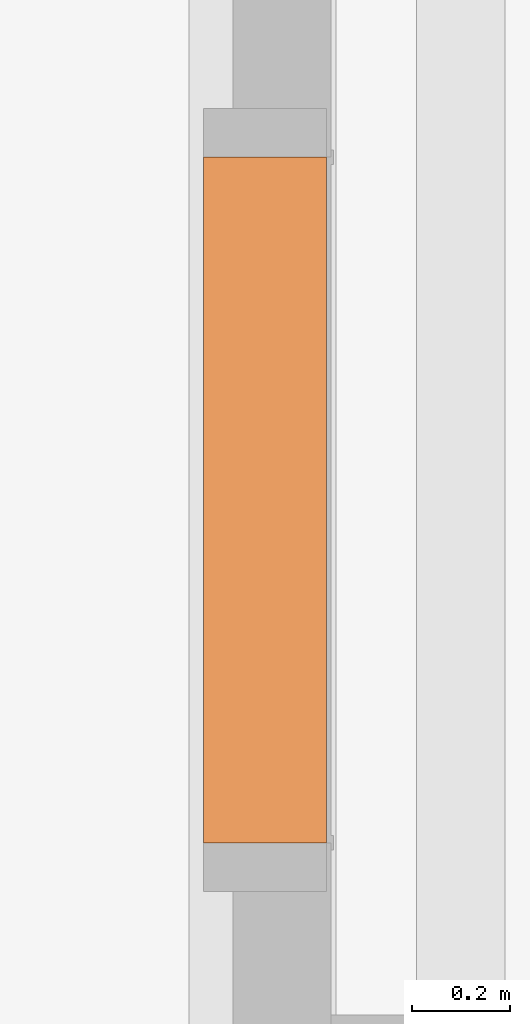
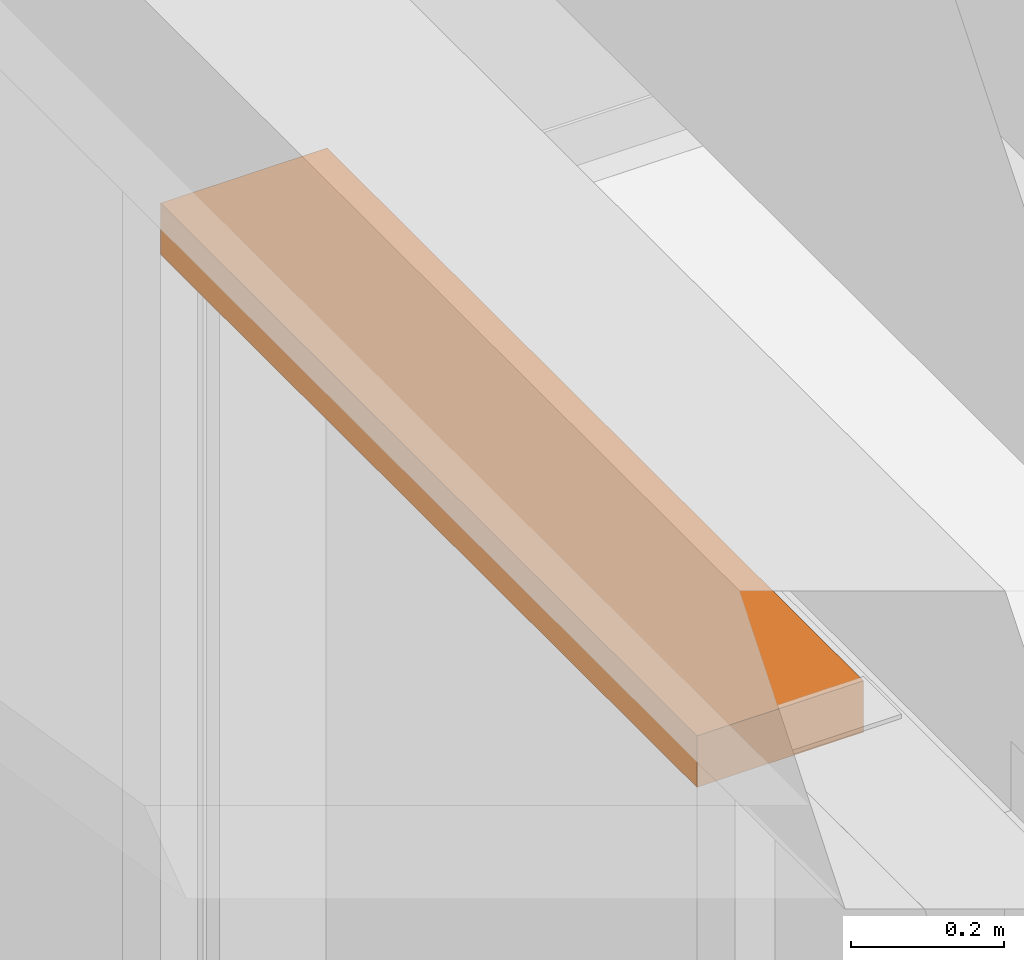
# One storey, part 48 of 49: 1 proxy.
"""IFC4 building model written with IfcOpenShell, lengths in metres."""

from ifc_helpers import new_model, entity, si_unit, converted_unit, derived_unit, direction, frame, origin, place, context, subcontext, project, spatial, indexed_curve, outline, extrude, source, transform, mapped, material, material_list, type_object, type_shapes, element, save


model = new_model("IFC4")

# Units and contexts
model_context = context("Model", 3, precision=1e-05, world=origin(), true_north=direction((6.12303176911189e-17, 1.0)))
body_context = subcontext(model_context, "Body", "Model", "MODEL_VIEW")
ifc_project = project(units=[si_unit("LENGTHUNIT", "METRE"), si_unit("AREAUNIT", "SQUARE_METRE"), si_unit("VOLUMEUNIT", "CUBIC_METRE"), converted_unit("PLANEANGLEUNIT", "DEGREE", entity("IfcRatioMeasure", 0.0174532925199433), si_unit("PLANEANGLEUNIT", "RADIAN"), dimensions=[0, 0, 0, 0, 0, 0, 0]), si_unit("MASSUNIT", "GRAM", prefix="KILO"), derived_unit("MASSDENSITYUNIT", [(si_unit("MASSUNIT", "GRAM", prefix="KILO"), 1), (si_unit("LENGTHUNIT", "METRE"), -3)]), derived_unit("MOMENTOFINERTIAUNIT", [(si_unit("LENGTHUNIT", "METRE"), 4)]), si_unit("TIMEUNIT", "SECOND"), si_unit("FREQUENCYUNIT", "HERTZ"), si_unit("THERMODYNAMICTEMPERATUREUNIT", "DEGREE_CELSIUS"), derived_unit("THERMALTRANSMITTANCEUNIT", [(si_unit("MASSUNIT", "GRAM", prefix="KILO"), 1), (si_unit("THERMODYNAMICTEMPERATUREUNIT", "KELVIN"), -1), (si_unit("TIMEUNIT", "SECOND"), -3)]), derived_unit("VOLUMETRICFLOWRATEUNIT", [(si_unit("LENGTHUNIT", "METRE"), 3), (si_unit("TIMEUNIT", "SECOND"), -1)]), si_unit("ELECTRICCURRENTUNIT", "AMPERE"), si_unit("ELECTRICVOLTAGEUNIT", "VOLT"), si_unit("POWERUNIT", "WATT"), si_unit("FORCEUNIT", "NEWTON", prefix="KILO"), si_unit("ILLUMINANCEUNIT", "LUX"), si_unit("LUMINOUSFLUXUNIT", "LUMEN"), si_unit("LUMINOUSINTENSITYUNIT", "CANDELA"), derived_unit("USERDEFINED", [(si_unit("MASSUNIT", "GRAM", prefix="KILO"), -1), (si_unit("LENGTHUNIT", "METRE"), -2), (si_unit("TIMEUNIT", "SECOND"), 3), (si_unit("LUMINOUSFLUXUNIT", "LUMEN"), 1)]), derived_unit("LINEARVELOCITYUNIT", [(si_unit("LENGTHUNIT", "METRE"), 1), (si_unit("TIMEUNIT", "SECOND"), -1)]), si_unit("PRESSUREUNIT", "PASCAL"), derived_unit("USERDEFINED", [(si_unit("LENGTHUNIT", "METRE"), -2), (si_unit("MASSUNIT", "GRAM", prefix="KILO"), 1), (si_unit("TIMEUNIT", "SECOND"), -2)]), derived_unit("LINEARFORCEUNIT", [(si_unit("MASSUNIT", "GRAM", prefix="KILO"), 1), (si_unit("LENGTHUNIT", "METRE"), 1), (si_unit("TIMEUNIT", "SECOND"), -2), (si_unit("LENGTHUNIT", "METRE"), -1)]), derived_unit("PLANARFORCEUNIT", [(si_unit("MASSUNIT", "GRAM", prefix="KILO"), 1), (si_unit("LENGTHUNIT", "METRE"), 1), (si_unit("TIMEUNIT", "SECOND"), -2), (si_unit("LENGTHUNIT", "METRE"), -2)])], contexts=[model_context])

# Site, building, storey
site_placement = place(None, origin())
site = spatial("IfcSite", under=ifc_project, at=site_placement, Name="Default", CompositionType="ELEMENT")
building_placement = place(site_placement, origin())
building = spatial("IfcBuilding", under=site, at=building_placement, Name="HOTEL CONSULAIRE BOULOGNE SUR MER", CompositionType="ELEMENT")
storey_placement = place(building_placement, frame((0.0, 0.0, 6.81974152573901)))
storey = spatial("IfcBuildingStorey", under=building, at=storey_placement, Name="Niveau 2", CompositionType="ELEMENT", Elevation=6.81974152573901)

# Proxy
ifc_material_1 = material(Name="Finition Peinture - Blanc satiné", Category="Peinture")
ifc_material_2 = material(Name="<Unnamed>")
ifc_material_list = material_list([ifc_material_2, ifc_material_1])
building_element_proxy_type = type_object("IfcBuildingElementProxyType", Name="Linteau:Linteau", PredefinedType="NOTDEFINED", material=ifc_material_list)
shared_shape = source(origin(), body_context, "Body", "SweptSolid", [
    extrude(outline(indexed_curve([(-0.125448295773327, -0.700000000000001), (0.125448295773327, -0.700000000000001), (0.125448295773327, 0.699999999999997), (-0.125448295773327, 0.699999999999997), (-0.125448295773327, -0.700000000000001)], self_intersect=False)), frame((0.125448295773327, 0.699999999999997, 0.0)), (0.0, 0.0, 1.0), 0.0819962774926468),
])
type_shapes(building_element_proxy_type, [shared_shape])
proxy_placement = place(storey_placement, frame((11.4116382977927, -22.537696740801, 2.63000372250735)))
element("IfcBuildingElementProxy", 1, at=proxy_placement, inside=storey, type_object=building_element_proxy_type, material=ifc_material_1, Name="Linteau:Linteau", ObjectType="Linteau:Linteau", PredefinedType="NOTDEFINED", context=body_context, shape_type="MappedRepresentation", body=[
    mapped(shared_shape, transform((0.0, 0.0, 0.0), scale=1.0)),
])

save(model, "model.ifc")
